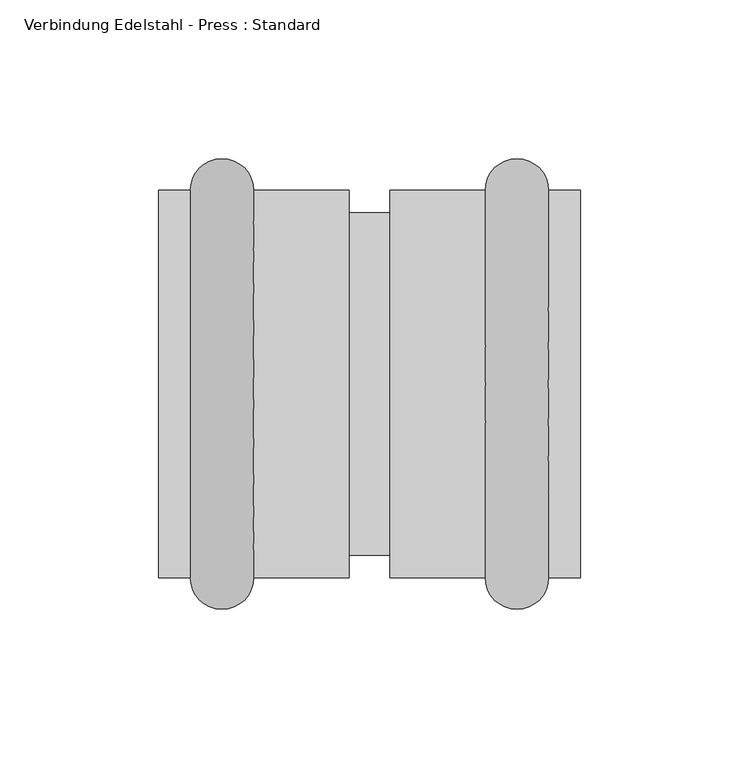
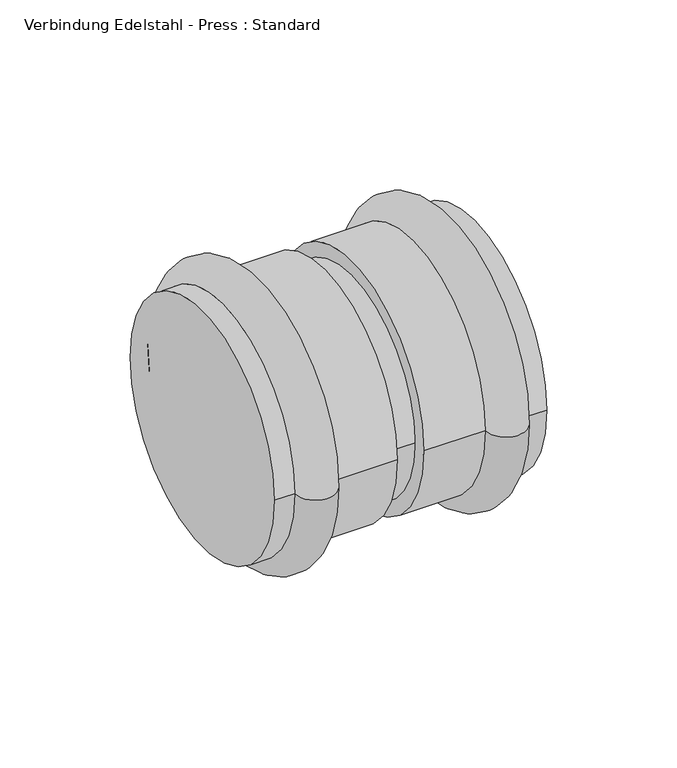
"""IFC4 building model written with IfcOpenShell, lengths in millimetres: pipe fitting geometry, Verbindung Edelstahl - Press : Standard."""

from ifc_helpers import new_model, si_unit, point, frame, origin, origin_2d, place, context, project, spatial, circle_curve, ellipse_curve, trimmed, segment, composite_curve, outline, extrude, source, transform, mapped, element, save
from ifc_brep_helpers import plane_surface, cylinder_surface, revolved_surface, advanced_brep


def verbindung_edelstahl_press_standard_6cba3e9c(model_context):
    return source(origin(), model_context, "Body", "SolidModel", [
        advanced_brep(
        [(66.5, -61.0, 0.0), (66.5, 61.0, 0.0), (6.5, -61.0, 0.0), (6.5, 61.0, 0.0), (56.5, -61.0, 0.0), (56.5, 61.0, 0.0), (36.5, 61.0, 0.0), (36.5, -61.0, 0.0)],
        [
            (0, 1, circle_curve(frame((66.5, 0.0, 0.0), z_axis=(1.0, 0.0, 0.0), x_axis=(0.0, 1.0, 0.0)), 61.0)),
            (1, 0, circle_curve(frame((66.5, 0.0, 0.0), z_axis=(1.0, 0.0, 0.0), x_axis=(0.0, 1.0, 0.0)), 61.0)),
            (2, 3, circle_curve(frame((6.5, 0.0, 0.0), z_axis=(-1.0, 0.0, 0.0), x_axis=(0.0, 1.0, 0.0)), 61.0)),
            (3, 2, circle_curve(frame((6.5, 0.0, 0.0), z_axis=(-1.0, 0.0, 0.0), x_axis=(0.0, 1.0, 0.0)), 61.0)),
            (0, 4),
            (4, 5, circle_curve(frame((56.5, 0.0, 0.0), z_axis=(1.0, 0.0, 0.0), x_axis=(0.0, 1.0, 0.0)), 61.0)),
            (5, 1),
            (3, 6),
            (6, 7, circle_curve(frame((36.5, 0.0, 0.0), z_axis=(-1.0, 0.0, 0.0), x_axis=(0.0, 1.0, 0.0)), 61.0)),
            (7, 2),
            (5, 4, circle_curve(frame((56.5, 0.0, 0.0), z_axis=(1.0, 0.0, 0.0), x_axis=(0.0, 1.0, 0.0)), 61.0)),
            (7, 6, circle_curve(frame((36.5, 0.0, 0.0), z_axis=(-1.0, 0.0, 0.0), x_axis=(0.0, 1.0, 0.0)), 61.0)),
            (6, 5, circle_curve(frame((46.5, 61.0, 0.0), z_axis=(0.0, 0.0, -1.0), x_axis=(1.0, 0.0, 0.0)), 10.0)),
            (4, 7, circle_curve(frame((46.5, -61.0, 0.0), z_axis=(0.0, 0.0, -1.0), x_axis=(1.0, 0.0, 0.0)), 10.0)),
        ],
        [
            plane_surface(frame((66.5, 61.0, 0.0), z_axis=(1.0, 0.0, 0.0), x_axis=(0.0, 0.0, 1.0))),
            plane_surface(frame((6.5, 61.0, 0.0), z_axis=(-1.0, 0.0, 0.0), x_axis=(0.0, 0.0, -1.0))),
            cylinder_surface(frame((6.5, 0.0, 0.0), z_axis=(1.0, 0.0, 0.0), x_axis=(0.0, 1.0, 0.0)), 61.0),
            revolved_surface(trimmed(ellipse_curve(frame((46.5, 61.0, 0.0), z_axis=(0.0, 0.0, 1.0), x_axis=(1.0, 0.0, 0.0)), 10.0, 10.0), [point((56.5, 61.0, 0.0))], [point((36.5, 61.0, 0.0))], True, "CARTESIAN"), (6.5, 0.0, 0.0), (-1.0, 0.0, 0.0)),
        ],
        [
            (0, [[1, 2]]),
            (1, [[3, 4]]),
            (2, [[-1, 5, 6, 7]]),
            (2, [[-4, 8, 9, 10]]),
            (2, [[-2, -7, 11, -5]]),
            (2, [[-3, -10, 12, -8]]),
            (3, [[13, -6, 14, -9]]),
            (3, [[-13, -12, -14, -11]]),
        ],
    ),
        advanced_brep(
        [(-66.5, -61.0, 0.0), (-66.5, 61.0, 0.0), (-6.5, -61.0, 0.0), (-6.5, 61.0, 0.0), (-56.5, 61.0, 0.0), (-56.5, -61.0, 0.0), (-36.5, -61.0, 0.0), (-36.5, 61.0, 0.0)],
        [
            (0, 1, circle_curve(frame((-66.5, 0.0, 0.0), z_axis=(-1.0, 0.0, 0.0), x_axis=(0.0, 1.0, 0.0)), 61.0)),
            (1, 0, circle_curve(frame((-66.5, 0.0, 0.0), z_axis=(-1.0, 0.0, 0.0), x_axis=(0.0, 1.0, 0.0)), 61.0)),
            (2, 3, circle_curve(frame((-6.5, 0.0, 0.0), z_axis=(1.0, 0.0, 0.0), x_axis=(0.0, 1.0, 0.0)), 61.0)),
            (3, 2, circle_curve(frame((-6.5, 0.0, 0.0), z_axis=(1.0, 0.0, 0.0), x_axis=(0.0, 1.0, 0.0)), 61.0)),
            (1, 4),
            (4, 5, circle_curve(frame((-56.5, 0.0, 0.0), z_axis=(-1.0, 0.0, 0.0), x_axis=(0.0, 1.0, 0.0)), 61.0)),
            (5, 0),
            (2, 6),
            (6, 7, circle_curve(frame((-36.5, 0.0, 0.0), z_axis=(1.0, 0.0, 0.0), x_axis=(0.0, 1.0, 0.0)), 61.0)),
            (7, 3),
            (5, 4, circle_curve(frame((-56.5, 0.0, 0.0), z_axis=(-1.0, 0.0, 0.0), x_axis=(0.0, 1.0, 0.0)), 61.0)),
            (7, 6, circle_curve(frame((-36.5, 0.0, 0.0), z_axis=(1.0, 0.0, 0.0), x_axis=(0.0, 1.0, 0.0)), 61.0)),
            (4, 7, circle_curve(frame((-46.5, 61.0, 0.0), z_axis=(0.0, 0.0, -1.0), x_axis=(1.0, 0.0, 0.0)), 10.0)),
            (6, 5, circle_curve(frame((-46.5, -61.0, 0.0), z_axis=(0.0, 0.0, -1.0), x_axis=(1.0, 0.0, 0.0)), 10.0)),
        ],
        [
            plane_surface(frame((-66.5, 61.0, 0.0), z_axis=(-1.0, 0.0, 0.0), x_axis=(0.0, 0.0, -1.0))),
            plane_surface(frame((-6.5, 61.0, 0.0), z_axis=(1.0, 0.0, 0.0), x_axis=(0.0, 0.0, 1.0))),
            cylinder_surface(frame((-66.5, 0.0, 0.0), z_axis=(1.0, 0.0, 0.0), x_axis=(0.0, 1.0, 0.0)), 61.0),
            revolved_surface(trimmed(ellipse_curve(frame((-46.5, 61.0, 0.0), z_axis=(0.0, 0.0, 1.0), x_axis=(1.0, 0.0, 0.0)), 10.0, 10.0), [point((-36.5, 61.0, 0.0))], [point((-56.5, 61.0, 0.0))], True, "CARTESIAN"), (-66.5, 0.0, 0.0), (-1.0, 0.0, 0.0)),
        ],
        [
            (0, [[1, 2]]),
            (1, [[3, 4]]),
            (2, [[-2, 5, 6, 7]]),
            (2, [[-3, 8, 9, 10]]),
            (2, [[-1, -7, 11, -5]]),
            (2, [[-4, -10, 12, -8]]),
            (3, [[13, -9, 14, -6]]),
            (3, [[-13, -11, -14, -12]]),
        ],
    ),
        extrude(outline(composite_curve([segment(trimmed(circle_curve(origin_2d(), 54.0), [point((-54.0, 0.0))], [point((54.0, 0.0))], False, "CARTESIAN"), True, "CONTINUOUS"), segment(trimmed(circle_curve(origin_2d(), 54.0), [point((54.0, 0.0))], [point((-54.0, 0.0))], False, "CARTESIAN"), True, "CONTINUOUS")], self_intersect=False)), frame((-6.5, 0.0, 0.0), z_axis=(1.0, 0.0, 0.0), x_axis=(0.0, 1.0, 0.0)), (0.0, 0.0, 1.0), 13.0),
    ])


if __name__ == "__main__":
    model = new_model("IFC4")
    model_context = context("Model", 3, world=origin())
    ifc_project = project(units=[si_unit("LENGTHUNIT", "METRE", prefix="MILLI")], contexts=[model_context])
    site = spatial("IfcSite", under=ifc_project)
    building = spatial("IfcBuilding", under=site)
    placement = place(None, origin())
    verbindung_edelstahl_press_standard_shape = verbindung_edelstahl_press_standard_6cba3e9c(model_context)
    element("IfcPipeFitting", 1, ObjectType="Verbindung Edelstahl - Press : Standard", at=placement, inside=building, context=model_context, shape_type="MappedRepresentation", body=[
        mapped(verbindung_edelstahl_press_standard_shape, transform((0.0, 0.0, 0.0), x_axis=(1.0, 0.0, 0.0), y_axis=(0.0, 1.0, 0.0), z_axis=(0.0, 0.0, 1.0))),
    ])
    save(model, "model.ifc")
